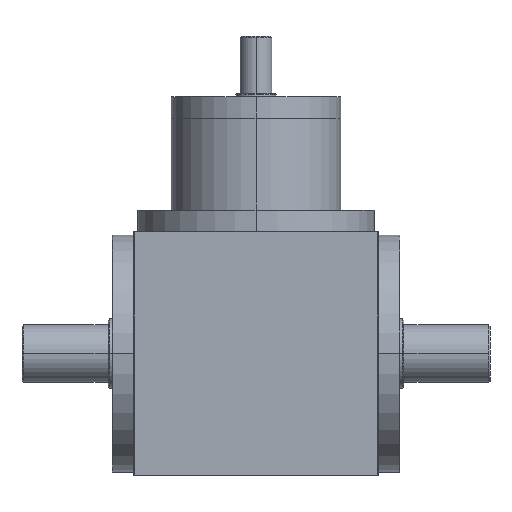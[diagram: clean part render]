
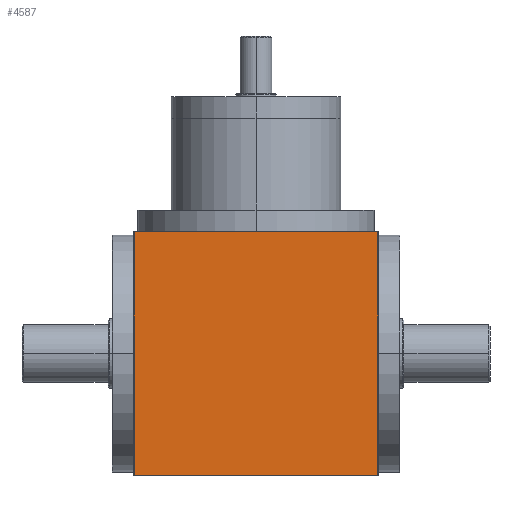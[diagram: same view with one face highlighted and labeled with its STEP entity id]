
A CAD part, front view. The second image highlights one B-rep face of the part: STEP entity #4587.
In plain terms, the highlighted planar face has unit normal (0, -1, 0).
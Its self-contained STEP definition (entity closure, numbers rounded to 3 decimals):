
#1479 = LINE ( 'NONE', #11124, #16974 ) ;
#1541 = ORIENTED_EDGE ( 'NONE', *, *, #5733, .T. ) ;
#2441 = CARTESIAN_POINT ( 'NONE',  ( -84.9, -85., 85. ) ) ;
#3431 = ORIENTED_EDGE ( 'NONE', *, *, #17457, .T. ) ;
#3585 = VECTOR ( 'NONE', #6945, 1000. ) ;
#4587 = ADVANCED_FACE ( 'NONE', ( #16279 ), #15668, .F. ) ;
#5275 = ORIENTED_EDGE ( 'NONE', *, *, #11063, .T. ) ;
#5733 = EDGE_CURVE ( 'NONE', #9315, #8434, #1479, .T. ) ;
#5934 = CARTESIAN_POINT ( 'NONE',  ( 84.9, -85., 84.9 ) ) ;
#6011 = ORIENTED_EDGE ( 'NONE', *, *, #15230, .T. ) ;
#6273 = CARTESIAN_POINT ( 'NONE',  ( -85., -85., 84.9 ) ) ;
#6717 = DIRECTION ( 'NONE',  ( 0., 1., 0. ) ) ;
#6945 = DIRECTION ( 'NONE',  ( 0., 0., 1. ) ) ;
#8219 = DIRECTION ( 'NONE',  ( 1., 0., 0. ) ) ;
#8417 = EDGE_LOOP ( 'NONE', ( #1541, #3431, #5275, #6011 ) ) ;
#8434 = VERTEX_POINT ( 'NONE', #19371 ) ;
#8811 = VERTEX_POINT ( 'NONE', #15991 ) ;
#9315 = VERTEX_POINT ( 'NONE', #9902 ) ;
#9364 = DIRECTION ( 'NONE',  ( -1., 0., 0. ) ) ;
#9902 = CARTESIAN_POINT ( 'NONE',  ( -84.9, -85., -84.9 ) ) ;
#10243 = VECTOR ( 'NONE', #9364, 1000. ) ;
#11063 = EDGE_CURVE ( 'NONE', #13694, #8811, #18207, .T. ) ;
#11124 = CARTESIAN_POINT ( 'NONE',  ( 85., -85., -84.9 ) ) ;
#13694 = VERTEX_POINT ( 'NONE', #5934 ) ;
#13924 = LINE ( 'NONE', #2441, #18414 ) ;
#14153 = CARTESIAN_POINT ( 'NONE',  ( 85., -85., 85. ) ) ;
#14380 = DIRECTION ( 'NONE',  ( 0., 0., -1. ) ) ;
#15230 = EDGE_CURVE ( 'NONE', #8811, #9315, #13924, .T. ) ;
#15524 = LINE ( 'NONE', #17375, #3585 ) ;
#15668 = PLANE ( 'NONE',  #19303 ) ;
#15991 = CARTESIAN_POINT ( 'NONE',  ( -84.9, -85., 84.9 ) ) ;
#16279 = FACE_OUTER_BOUND ( 'NONE', #8417, .T. ) ;
#16974 = VECTOR ( 'NONE', #8219, 1000. ) ;
#17202 = DIRECTION ( 'NONE',  ( 0., 0., 1. ) ) ;
#17375 = CARTESIAN_POINT ( 'NONE',  ( 84.9, -85., 85. ) ) ;
#17457 = EDGE_CURVE ( 'NONE', #8434, #13694, #15524, .T. ) ;
#18207 = LINE ( 'NONE', #6273, #10243 ) ;
#18414 = VECTOR ( 'NONE', #14380, 1000. ) ;
#19303 = AXIS2_PLACEMENT_3D ( 'NONE', #14153, #6717, #17202 ) ;
#19371 = CARTESIAN_POINT ( 'NONE',  ( 84.9, -85., -84.9 ) ) ;
